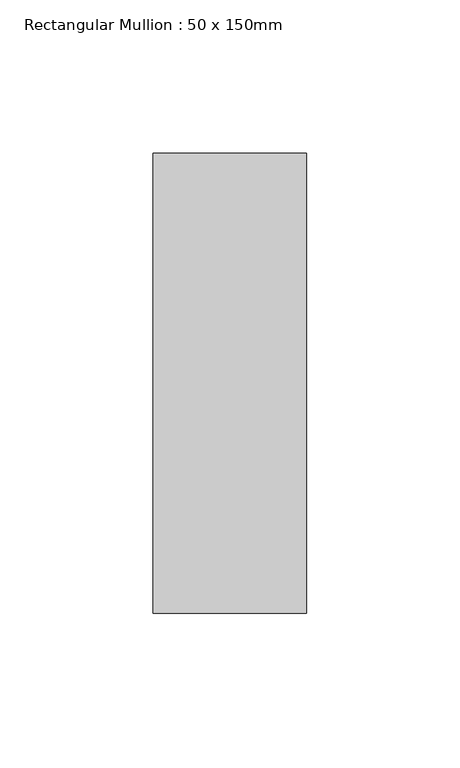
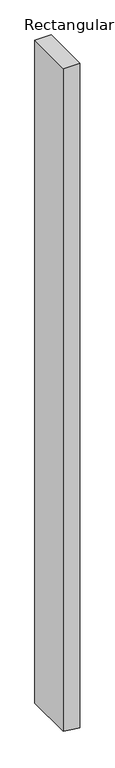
"""IFC4 building model written with IfcOpenShell, lengths in millimetres: member geometry, Rectangular Mullion : 50 x 150mm."""

import ifcopenshell
import ifcopenshell.guid

model = None  # the IFC model being written
_history = None  # IfcOwnerHistory: only IFC2X3 demands one
_inside = {}  # id of a spatial element -> (the spatial element, [elements in it])
_under = {}  # id of a project, library or spatial element -> (it, [spatial elements below it])
_declared = {}  # id of a project -> (the project, [libraries it declares])
_typed = {}  # id of a type object -> (the type object, [elements of that type])
_made_of = {}  # id of a material, layer set ... -> (it, [elements and type objects made of it])


def new_model(schema):
    """Start an empty IFC model of exactly this schema.

    Asked for "IFC4X3", IfcOpenShell would pick the latest addendum, in which some entities
    have other attributes; the version numbers below select the first issue.
    IFC2X3 requires an IfcOwnerHistory on every rooted entity: one is made here for all.
    """
    global model, _history
    if schema == "IFC4X3":
        model = ifcopenshell.file(schema_version=(4, 3, 0, 0))
    else:
        model = ifcopenshell.file(schema=schema)
    _inside.clear()
    _under.clear()
    _declared.clear()
    _typed.clear()
    _made_of.clear()
    _history = None
    if model.schema == "IFC2X3":
        org = make("IfcOrganization", Name="unknown")
        user = make(
            "IfcPersonAndOrganization",
            ThePerson=make("IfcPerson", FamilyName="unknown"),
            TheOrganization=org,
        )
        app = make(
            "IfcApplication",
            ApplicationDeveloper=org,
            Version="unknown",
            ApplicationFullName="unknown",
            ApplicationIdentifier="unknown",
        )
        _history = make(
            "IfcOwnerHistory",
            OwningUser=user,
            OwningApplication=app,
            ChangeAction="ADDED",
            CreationDate=0,
        )
    return model


def make(cls, **values):
    """One entity of the class cls with the attributes given. An attribute that is None is left unset."""
    return model.create_entity(
        cls, **{name: value for name, value in values.items() if value is not None}
    )


def rooted(cls, **values):
    """An entity with a GlobalId (a new one), such as an element, a storey or a relation."""
    return make(cls, GlobalId=ifcopenshell.guid.new(), OwnerHistory=_history, **values)


def si_unit(unit_type, name, prefix=None):
    """IfcSIUnit, for example si_unit("LENGTHUNIT", "METRE", prefix="MILLI")."""
    return make("IfcSIUnit", UnitType=unit_type, Prefix=prefix, Name=name)


def assignment(units):
    """IfcUnitAssignment: the units of a project."""
    return None if units is None else make("IfcUnitAssignment", Units=units)


def point(xyz):
    """IfcCartesianPoint."""
    return None if xyz is None else make("IfcCartesianPoint", Coordinates=xyz)


def direction(xyz):
    """IfcDirection."""
    return None if xyz is None else make("IfcDirection", DirectionRatios=xyz)


def frame(location, z_axis=None, x_axis=None):
    """IfcAxis2Placement3D, a coordinate frame: its origin and axes. An axis left out is left unset."""
    return make(
        "IfcAxis2Placement3D",
        Location=point(location),
        Axis=direction(z_axis),
        RefDirection=direction(x_axis),
    )


def origin():
    """The frame at (0, 0, 0) with its axes left unset."""
    return frame((0.0, 0.0, 0.0))


def place(relative_to, where):
    """IfcLocalPlacement: puts the frame where relative to a parent placement (None: the world)."""
    return make(
        "IfcLocalPlacement", PlacementRelTo=relative_to, RelativePlacement=where
    )


def context(
    kind, dimensions, precision=None, world=None, true_north=None, identifier=None
):
    """IfcGeometricRepresentationContext, for example the 3D "Model" context."""
    return make(
        "IfcGeometricRepresentationContext",
        ContextIdentifier=identifier,
        ContextType=kind,
        CoordinateSpaceDimension=dimensions,
        Precision=precision,
        WorldCoordinateSystem=world,
        TrueNorth=true_north,
    )


def project(units=None, contexts=None):
    """IfcProject with its units and contexts."""
    return rooted(
        "IfcProject",
        Name="project",
        RepresentationContexts=contexts,
        UnitsInContext=assignment(units),
    )


def spatial(cls, under=None, at=None, **own):
    """A site, building, storey or space (cls), placed at a placement, below another one or the project."""
    s = rooted(cls, ObjectPlacement=at, **own)
    if under is not None:
        _under.setdefault(under.id(), (under, []))[1].append(s)
    return s


def polyline(points):
    """IfcPolyline through the points."""
    return make("IfcPolyline", Points=[point(p) for p in points])


def outline(outer, holes=None, kind="AREA"):
    """IfcArbitraryClosedProfileDef: a profile drawn as a closed curve; with holes, ...WithVoids."""
    if holes is None:
        return make("IfcArbitraryClosedProfileDef", ProfileType=kind, OuterCurve=outer)
    return make(
        "IfcArbitraryProfileDefWithVoids",
        ProfileType=kind,
        OuterCurve=outer,
        InnerCurves=holes,
    )


def extrude(swept, where, along, depth):
    """IfcExtrudedAreaSolid: the profile swept, set in the frame where, extruded along a direction by depth."""
    return make(
        "IfcExtrudedAreaSolid",
        SweptArea=swept,
        Position=where,
        ExtrudedDirection=direction(along),
        Depth=depth,
    )


def shape(context_of_items, identifier, shape_type, items):
    """IfcShapeRepresentation: the items that make up one representation, for example the "Body"."""
    return make(
        "IfcShapeRepresentation",
        ContextOfItems=context_of_items,
        RepresentationIdentifier=identifier,
        RepresentationType=shape_type,
        Items=items,
    )


def source(mapping_origin, context_of_items, identifier, shape_type, items):
    """IfcRepresentationMap: a shape defined once, which mapped items show again and again."""
    return make(
        "IfcRepresentationMap",
        MappingOrigin=mapping_origin,
        MappedRepresentation=shape(context_of_items, identifier, shape_type, items),
    )


def transform(
    local_origin,
    x_axis=None,
    y_axis=None,
    z_axis=None,
    scale=None,
    scale2=None,
    scale3=None,
    uniform=True,
):
    """IfcCartesianTransformationOperator3D, or its non-uniform kind. x_axis, y_axis, z_axis: its Axis1, 2, 3."""
    if uniform:
        return make(
            "IfcCartesianTransformationOperator3D",
            Axis1=direction(x_axis),
            Axis2=direction(y_axis),
            LocalOrigin=point(local_origin),
            Scale=scale,
            Axis3=direction(z_axis),
        )
    return make(
        "IfcCartesianTransformationOperator3DnonUniform",
        Axis1=direction(x_axis),
        Axis2=direction(y_axis),
        LocalOrigin=point(local_origin),
        Scale=scale,
        Axis3=direction(z_axis),
        Scale2=scale2,
        Scale3=scale3,
    )


def mapped(mapping_source, mapping_target):
    """IfcMappedItem: shows the shape of a source again, moved by a transform."""
    return make(
        "IfcMappedItem", MappingSource=mapping_source, MappingTarget=mapping_target
    )


def made_of(thing, what):
    """Note that an element or type object is made of a material, layer set ...; save() writes the relation."""
    if what is not None:
        _made_of.setdefault(what.id(), (what, []))[1].append(thing)
    return thing


def element(
    cls,
    number,
    at=None,
    inside=None,
    cuts=None,
    type_object=None,
    material=None,
    context=None,
    identifier="Body",
    shape_type=None,
    held_by="IfcProductDefinitionShape",
    body=None,
    shapes=None,
    **own,
):
    """One element of the class cls, such as IfcWall. Its Tag is "e" and its number.

    at: its placement. inside: the storey or other place that contains it. cuts: it is an
    opening in that element (IfcRelVoidsElement). A single representation is given by context,
    identifier, shape_type and body (its items); several are given by shapes. held_by: the class
    of the entity that holds the representations. save() writes the other relations.
    """
    e = rooted(cls, Tag="e%d" % number, ObjectPlacement=at, **own)
    if body is not None:
        shapes = [shape(context, identifier, shape_type, body)]
    if shapes is not None:
        e.Representation = make(held_by, Representations=shapes)
    if inside is not None:
        _inside.setdefault(inside.id(), (inside, []))[1].append(e)
    if cuts is not None:
        rooted(
            "IfcRelVoidsElement", RelatingBuildingElement=cuts, RelatedOpeningElement=e
        )
    if type_object is not None:
        _typed.setdefault(type_object.id(), (type_object, []))[1].append(e)
    return made_of(e, material)


def aggregate(whole, parts):
    """IfcRelAggregates: a whole, such as a stair, and the parts it consists of."""
    return rooted("IfcRelAggregates", RelatingObject=whole, RelatedObjects=parts)


def save(model, path):
    """Write the relations noted so far, then the file.

    IfcRelAggregates (storeys below a building ...), IfcRelContainedInSpatialStructure (elements
    in a storey), IfcRelDefinesByType, IfcRelAssociatesMaterial and IfcRelDeclares: one each for
    every whole, place, type object, material and project.
    """
    for whole, parts in _under.values():
        aggregate(whole, parts)
    for where, things in _inside.values():
        rooted(
            "IfcRelContainedInSpatialStructure",
            RelatedElements=things,
            RelatingStructure=where,
        )
    for kind, things in _typed.values():
        rooted("IfcRelDefinesByType", RelatedObjects=things, RelatingType=kind)
    for what, things in _made_of.values():
        rooted("IfcRelAssociatesMaterial", RelatedObjects=things, RelatingMaterial=what)
    for by, libraries in _declared.values():
        rooted("IfcRelDeclares", RelatingContext=by, RelatedDefinitions=libraries)
    model.write(path)


def rectangular_mullion_50_x_150mm_db12f103(model_context):
    return source(origin(), model_context, "Body", "SweptSolid", [
        extrude(outline(polyline([(0.0, 25.0), (0.0, -25.0), (-2136.94154, -25.0), (-2140.4216992, 5.6423937), (-2142.6202074, 25.0), (0.0, 25.0)])), frame((0.0, -75.0, 0.0), z_axis=(0.0, 1.0, 0.0), x_axis=(0.0, 0.0, 1.0)), (0.0, 0.0, 1.0), 150.0),
    ])


if __name__ == "__main__":
    model = new_model("IFC4")
    model_context = context("Model", 3, world=origin())
    ifc_project = project(units=[si_unit("LENGTHUNIT", "METRE", prefix="MILLI")], contexts=[model_context])
    site = spatial("IfcSite", under=ifc_project)
    building = spatial("IfcBuilding", under=site)
    placement = place(None, origin())
    rectangular_mullion_50_x_150mm_shape = rectangular_mullion_50_x_150mm_db12f103(model_context)
    element("IfcMember", 1, ObjectType="Rectangular Mullion : 50 x 150mm", at=placement, inside=building, context=model_context, shape_type="MappedRepresentation", body=[
        mapped(rectangular_mullion_50_x_150mm_shape, transform((0.0, 0.0, 0.0), x_axis=(1.0, 0.0, 0.0), y_axis=(0.0, 1.0, 0.0), z_axis=(0.0, 0.0, 1.0))),
    ])
    save(model, "model.ifc")
